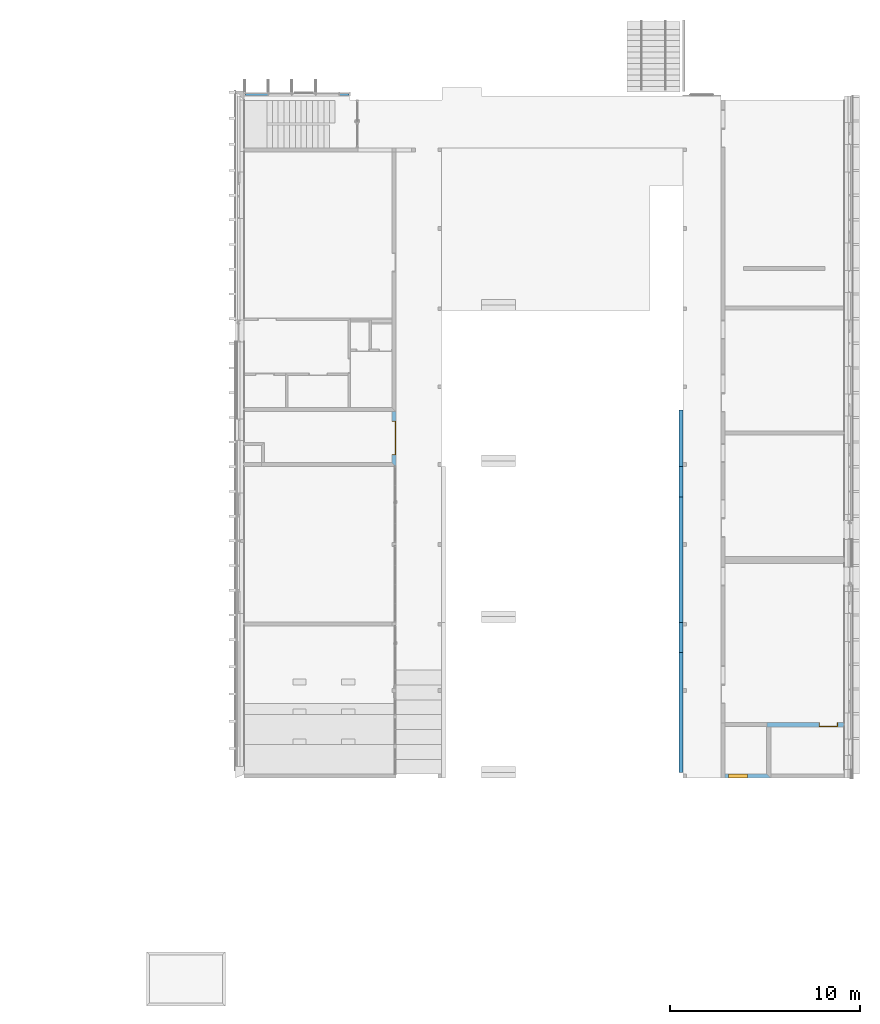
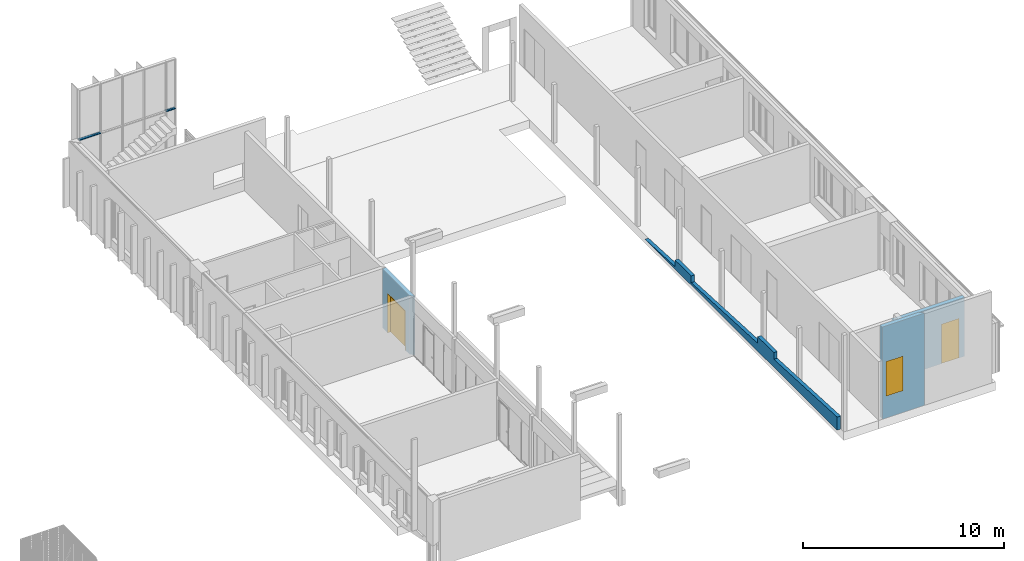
# One storey, part 26 of 65: 3 doors, 2 members, 1 wall, 3 openings, 1 element without a shape of its own, plus 3 elements that do not belong to this part.
"""IFC2X3 building model written with IfcOpenShell, lengths in millimetres."""

from ifc_helpers import new_model, entity, si_unit, converted_unit, derived_unit, money_unit, direction, frame, origin_with_axes, origin_2d_with_axis, place, context, subcontext, project, spatial, polyline, rectangle, outline, extrude, boolean, faceted_brep, material, layer, layer_set, layer_usage, type_object, element, fill, aggregate, save


model = new_model("IFC2X3")

# Units and contexts
model_context = context("Model", 3, precision=0.01, world=origin_with_axes(), true_north=direction((0.0, 1.0)))
body_context = subcontext(model_context, "Body", "Model", "MODEL_VIEW")
ifc_project = project(units=[si_unit("LENGTHUNIT", "METRE", prefix="MILLI"), si_unit("AREAUNIT", "SQUARE_METRE"), si_unit("VOLUMEUNIT", "CUBIC_METRE"), converted_unit("PLANEANGLEUNIT", "DEGREE", entity("IfcPlaneAngleMeasure", 0.0174532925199), si_unit("PLANEANGLEUNIT", "RADIAN"), dimensions=[0, 0, 0, 0, 0, 0, 0]), si_unit("SOLIDANGLEUNIT", "STERADIAN"), money_unit("EUR"), converted_unit("TIMEUNIT", "Year", entity("IfcTimeMeasure", 31556926.0), si_unit("TIMEUNIT", "SECOND"), dimensions=[0, 0, 1, 0, 0, 0, 0]), si_unit("MASSUNIT", "GRAM", prefix="KILO"), si_unit("THERMODYNAMICTEMPERATUREUNIT", "DEGREE_CELSIUS"), si_unit("LUMINOUSINTENSITYUNIT", "LUMEN"), si_unit("ENERGYUNIT", "JOULE", prefix="MEGA"), derived_unit("THERMALCONDUCTANCEUNIT", [(si_unit("POWERUNIT", "WATT"), 1), (si_unit("LENGTHUNIT", "METRE"), -1), (si_unit("THERMODYNAMICTEMPERATUREUNIT", "KELVIN"), -1)]), derived_unit("SPECIFICHEATCAPACITYUNIT", [(si_unit("ENERGYUNIT", "JOULE"), 1), (si_unit("MASSUNIT", "GRAM", prefix="KILO"), -1), (si_unit("THERMODYNAMICTEMPERATUREUNIT", "KELVIN"), -1)]), derived_unit("MASSDENSITYUNIT", [(si_unit("MASSUNIT", "GRAM", prefix="KILO"), 1), (si_unit("VOLUMEUNIT", "CUBIC_METRE"), -1)])], contexts=[model_context])

# Site, building, storey
site_placement = place(None, origin_with_axes())
site = spatial("IfcSite", under=ifc_project, at=site_placement, Name="Puškini 31, Narva", CompositionType="ELEMENT")
building_placement = place(site_placement, origin_with_axes())
building = spatial("IfcBuilding", under=site, at=building_placement, Name="Narva Riigigümnaasium", CompositionType="ELEMENT")
storey_placement = place(building_placement, frame((0.0, 0.0, -1320.0), z_axis=(0.0, 0.0, 1.0), x_axis=(1.0, 0.0, 0.0)))
storey = spatial("IfcBuildingStorey", under=building, at=storey_placement, Name="1.korrus -1.32", CompositionType="ELEMENT", Elevation=-1320.0)

# Curtain wall, members
curtain_wall_type = type_object("IfcCurtainWallType", Name="Curtain Wall Type", PredefinedType="NOTDEFINED")
curtain_wall_placement = place(storey_placement, frame((23044.9999985, 195055.000005, -0.000275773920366), z_axis=(0.0, 0.0, 1.0), x_axis=(1.0, 0.0, 0.0)))
curtain_wall = element("IfcCurtainWall", 1, at=curtain_wall_placement, inside=storey, type_object=curtain_wall_type, Name="G-KLF-04")
ifc_material_1 = material(Name="ET-04_Alumiinium")
member_type = type_object("IfcMemberType", Name="Boundary Frame 50 x 176", PredefinedType="MULLION")
member_1_placement = place(curtain_wall_placement, frame((-625.0, 0.0, 3960.00002624), z_axis=(1.0, 0.0, 0.0), x_axis=(0.0, 0.0, 1.0)))
member_1 = element("IfcMember", 2, at=member_1_placement, type_object=member_type, material=ifc_material_1, Name="klaasfassaadi raam", ObjectType="MULLION", context=body_context, shape_type="Brep", body=[
    faceted_brep([(-10.0, 29.0, 1250.0), (-10.0, -29.0, 1250.0), (-25.0, -29.0, 1250.0), (-25.0, -46.0, 1250.0), (25.0, -46.0, 1250.0), (25.0, -29.0, 1250.0), (10.0, -29.0, 1250.0), (10.0, 29.0, 1250.0), (25.0, 29.0, 1250.0), (25.0, 130.0, 1250.0), (-25.0, 130.0, 1250.0), (-25.0, 29.0, 1250.0), (-10.0, 29.0, 20.0), (-10.0, -29.0, 20.0), (-25.0, -29.0, 50.0), (-25.0, -46.0, 50.0), (25.0, -46.0, 50.0), (0.0, -46.0, 0.0), (25.0, -29.0, 50.0), (10.0, -29.0, 20.0), (10.0, 29.0, 20.0), (25.0, 29.0, 50.0), (25.0, 130.0, 50.0), (-25.0, 130.0, 50.0), (0.0, 130.0, 0.0), (-25.0, 29.0, 50.0)], [[[0, 1, 2, 3, 4, 5, 6, 7, 8, 9, 10, 11]], [[0, 12, 13, 1]], [[1, 13, 14, 2]], [[14, 15, 3, 2]], [[16, 4, 3, 15, 17]], [[18, 5, 4, 16]], [[5, 18, 19, 6]], [[7, 6, 19, 20]], [[8, 7, 20, 21]], [[8, 21, 22, 9]], [[23, 10, 9, 22, 24]], [[11, 10, 23, 25]], [[11, 25, 12, 0]], [[13, 12, 25, 23, 24, 17, 15, 14]], [[16, 17, 24, 22, 21, 20, 19, 18]]]),
])
member_2_placement = place(curtain_wall_placement, frame((4375.0, 0.0, 3960.00002624), z_axis=(1.0, 0.0, 0.0), x_axis=(0.0, 0.0, 1.0)))
member_2 = element("IfcMember", 3, at=member_2_placement, type_object=member_type, material=ifc_material_1, Name="klaasfassaadi raam", ObjectType="MULLION", context=body_context, shape_type="Brep", body=[
    faceted_brep([(-10.0, 29.0, 540.040175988), (-10.0, -29.0, 540.040175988), (-25.0, -29.0, 510.040175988), (-25.0, -46.0, 510.040175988), (0.0, -46.0, 560.040175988), (0.0, 130.0, 560.040175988), (-25.0, 130.0, 510.040175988), (-25.0, 29.0, 510.040175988), (-10.0, 29.0, 0.0), (-10.0, -29.0, 0.0), (-25.0, -29.0, 0.0), (-25.0, -46.0, 0.0), (25.0, -46.0, 0.0), (25.0, -46.0, 510.040175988), (25.0, -29.0, 510.040175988), (10.0, -29.0, 540.040175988), (10.0, 29.0, 540.040175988), (25.0, 29.0, 510.040175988), (25.0, 130.0, 510.040175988), (25.0, 130.0, 0.0), (-25.0, 130.0, 0.0), (-25.0, 29.0, 0.0), (25.0, 29.0, 0.0), (10.0, 29.0, 0.0), (10.0, -29.0, 0.0), (25.0, -29.0, 0.0)], [[[0, 1, 2, 3, 4, 5, 6, 7]], [[0, 8, 9, 1]], [[1, 9, 10, 2]], [[10, 11, 3, 2]], [[11, 12, 13, 4, 3]], [[5, 4, 13, 14, 15, 16, 17, 18]], [[18, 19, 20, 6, 5]], [[7, 6, 20, 21]], [[7, 21, 8, 0]], [[9, 8, 21, 20, 19, 22, 23, 24, 25, 12, 11, 10]], [[25, 14, 13, 12]], [[14, 25, 24, 15]], [[16, 15, 24, 23]], [[17, 16, 23, 22]], [[17, 22, 19, 18]]]),
])
aggregate(curtain_wall, [member_1, member_2])

# Wall
ifc_material_2 = material(Name="KON-04_Betoon - Konstuktsioon")
wall_type_1 = type_object("IfcWallType", Name="KON-04_Betoon - Konstuktsioon 200", PredefinedType="NOTDEFINED")
wall_1_placement = place(storey_placement, frame((45499.9999996, 159000.0, 0.0), z_axis=(0.0, 0.0, 1.0), x_axis=(0.0, 1.0, 0.0)))
element("IfcWall", 4, at=wall_1_placement, inside=storey, type_object=wall_type_1, material=ifc_material_2, Name="Sisesein", context=body_context, shape_type="CSG", body=[
    boolean("DIFFERENCE", extrude(outline(polyline([(0.0, 0.0), (31200.0000003, 0.0), (31200.0000003, 200.0), (0.0, 200.0), (0.0, 0.0)])), origin_with_axes(), (0.0, 0.0, 1.0), 3565.0), faceted_brep([(16399.9999995, 7.68189067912e-07, 550.0), (16399.9999995, 7.68189067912e-07, 149.362898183), (19387.2579632, 7.68189067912e-07, 0.0), (31200.0000003, 0.0, 0.0), (31200.0000003, 0.0, 3565.0), (0.0, 0.0, 3565.0), (0.0, 0.0, 0.0), (299.999999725, 0.0, 0.0), (299.999999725, 9.62785406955e-08, 794.382130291), (6599.99999973, 9.62785406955e-08, 479.754421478), (6599.99999973, 9.62785406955e-08, 880.0), (8199.99993485, -1.01482697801e-05, 880.0), (8199.99993485, -1.01482697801e-05, 479.362898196), (14800.0000002, -1.01482697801e-05, 149.362898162), (14800.0000002, -1.01482697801e-05, 550.0), (16399.9999995, 200.0, 550.0), (16399.9999995, 200.0, 149.362898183), (19387.2579632, 200.0, 0.0), (31200.0000003, 200.0, 0.0), (31200.0000003, 200.0, 3565.0), (0.0, 200.0, 3565.0), (0.0, 200.0, 0.0), (299.999999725, 200.0, 0.0), (299.999999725, 200.0, 794.382130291), (6599.99999973, 200.0, 479.754421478), (6599.99999973, 200.0, 880.0), (8199.99993485, 200.0, 880.0), (8199.99993485, 200.0, 479.362898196), (14800.0000002, 200.0, 149.362898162), (14800.0000002, 200.0, 550.0)], [[[0, 1, 2, 3, 4, 5, 6, 7, 8, 9, 10, 11, 12, 13, 14]], [[1, 0, 15, 16]], [[17, 2, 1, 16]], [[2, 17, 18, 3]], [[4, 3, 18, 19]], [[20, 5, 4, 19]], [[20, 21, 6, 5]], [[22, 7, 6, 21]], [[8, 7, 22, 23]], [[9, 8, 23, 24]], [[10, 9, 24, 25]], [[11, 10, 25, 26]], [[12, 11, 26, 27]], [[13, 12, 27, 28]], [[14, 13, 28, 29]], [[0, 14, 29, 15]], [[23, 22, 21, 20, 19, 18, 17, 16, 15, 29, 28, 27, 26, 25, 24]]])),
])

# Wall, opening, door
ifc_material_3 = material(Name="Betoon element")
ifc_layer_1 = layer(ifc_material_3, 200.0, ventilated="UNKNOWN")
ifc_material_4 = material(Name="siseviimistlus-seinad")
ifc_layer_2 = layer(ifc_material_4, 10.0, ventilated="UNKNOWN")
ifc_layer_set_1 = layer_set([ifc_layer_1, ifc_layer_2], Name="G-SS-01-02")
ifc_layer_usage_1 = layer_usage(ifc_layer_set_1, "AXIS2", "NEGATIVE", 0.0)
wall_type_2 = type_object("IfcWallType", Name="G-SS-01-02 210", PredefinedType="NOTDEFINED")
wall_2_placement = place(storey_placement, frame((30399.9999994, 178500.00001, 0.0), z_axis=(0.0, 0.0, 1.0), x_axis=(0.0, -1.0, 0.0)))
wall_2 = element("IfcWallStandardCase", 5, at=wall_2_placement, inside=storey, type_object=wall_type_2, material=ifc_layer_usage_1, Name="Sisesein", context=body_context, shape_type="SweptSolid", body=[
    extrude(outline(polyline([(210.0, -210.0), (2889.99989486, -210.0), (3109.99989486, 0.0), (210.0, 0.0), (210.0, -210.0)])), origin_with_axes(), (0.0, 0.0, 1.0), 3565.0),
])
opening_1_placement = place(wall_2_placement, frame((1600.00000015, 0.0, 0.0), z_axis=(0.0, 0.0, 1.0), x_axis=(1.0, 0.0, 0.0)))
opening_1 = element("IfcOpeningElement", 6, at=opening_1_placement, cuts=wall_2, Name="G-SU-002", context=body_context, shape_type="SweptSolid", body=[
    extrude(rectangle(XDim=1799.99999996, YDim=2400.0, at=origin_2d_with_axis()), frame((0.0, -210.0, 1200.0), z_axis=(0.0, 1.0, 0.0), x_axis=(1.0, 0.0, 0.0)), (0.0, 0.0, 1.0), 630.0),
])
door_style_1 = type_object("IfcDoorStyle", Name="Double Door 23", ConstructionType="NOTDEFINED", OperationType="DOUBLE_DOOR_SINGLE_SWING", ParameterTakesPrecedence=False, Sizeable=False)
door_1_placement = place(opening_1_placement, frame((-899.99999998, 0.0, 0.0), z_axis=(0.0, 0.0, 1.0), x_axis=(1.0, 0.0, 0.0)))
door_1 = element("IfcDoor", 7, at=door_1_placement, inside=storey, type_object=door_style_1, Name="G-SU-002", ObjectType="DOOR", OverallHeight=2400.0, OverallWidth=1800.0, context=body_context, shape_type="Brep", body=[
    faceted_brep([(40.0, -40.0, 0.0), (40.0, -40.0, 2360.0), (40.0, -210.0, 2360.0), (40.0, -210.0, 0.0), (28.0, -40.0, 2360.0), (28.0, -40.0, 0.0), (28.0, 0.0, 2360.0), (0.0, 0.0, 2360.0), (0.0, -210.0, 2360.0), (0.0, -210.0, 0.0), (0.0, 0.0, 0.0), (28.0, 0.0, 0.0)], [[[0, 1, 2, 3]], [[4, 1, 0, 5]], [[4, 6, 7, 8, 2, 1]], [[3, 2, 8, 9]], [[5, 0, 3, 9, 10, 11]], [[6, 4, 5, 11]], [[6, 11, 10, 7]], [[10, 9, 8, 7]]]),
    faceted_brep([(1771.99999996, -40.0, 2360.0), (1759.99999996, -40.0, 2360.0), (1759.99999996, -210.0, 2360.0), (1799.99999996, -210.0, 2360.0), (1799.99999996, 0.0, 2360.0), (1771.99999996, 0.0, 2360.0), (1771.99999996, -40.0, 0.0), (1759.99999996, -40.0, 0.0), (1759.99999996, -210.0, 0.0), (1799.99999996, -210.0, 0.0), (1799.99999996, 0.0, 0.0), (1771.99999996, 0.0, 0.0)], [[[0, 1, 2, 3, 4, 5]], [[1, 0, 6, 7]], [[1, 7, 8, 2]], [[3, 2, 8, 9]], [[4, 3, 9, 10]], [[11, 5, 4, 10]], [[0, 5, 11, 6]], [[6, 11, 10, 9, 8, 7]]]),
    faceted_brep([(28.0, 0.0, 2372.0), (28.0, 0.0, 2360.0), (0.0, 0.0, 2360.0), (0.0, 0.0, 2400.0), (1799.99999996, 0.0, 2400.0), (1799.99999996, 0.0, 2360.0), (1771.99999996, 0.0, 2360.0), (1771.99999996, 0.0, 2372.0), (28.0, -40.0, 2372.0), (28.0, -40.0, 2360.0), (40.0, -40.0, 2360.0), (40.0, -210.0, 2360.0), (0.0, -210.0, 2360.0), (0.0, -210.0, 2400.0), (1799.99999996, -210.0, 2400.0), (1799.99999996, -210.0, 2360.0), (1771.99999996, -40.0, 2360.0), (1759.99999996, -210.0, 2360.0), (1759.99999996, -40.0, 2360.0), (1771.99999996, -40.0, 2372.0)], [[[0, 1, 2, 3, 4, 5, 6, 7]], [[1, 0, 8, 9]], [[9, 10, 11, 12, 2, 1]], [[2, 12, 13, 3]], [[3, 13, 14, 4]], [[4, 14, 15, 5]], [[16, 6, 5, 15, 17, 18]], [[7, 6, 16, 19]], [[0, 7, 19, 8]], [[16, 18, 10, 9, 8, 19]], [[10, 18, 17, 11]], [[17, 15, 14, 13, 12, 11]]]),
    faceted_brep([(1771.99999996, 0.0, 0.0), (1771.99999996, -40.0, 0.0), (899.99999998, -40.0, 0.0), (899.99999998, 0.0, 0.0), (1771.99999996, 0.0, 2372.0), (1771.99999996, -40.0, 2372.0), (899.99999998, -40.0, 2372.0), (899.99999998, 0.0, 2372.0)], [[[0, 1, 2, 3]], [[4, 5, 1, 0]], [[1, 5, 6, 2]], [[3, 2, 6, 7]], [[0, 3, 7, 4]], [[7, 6, 5, 4]]]),
    faceted_brep([(28.0, 0.0, 0.0), (899.99999998, 0.0, 0.0), (899.99999998, -40.0, 0.0), (28.0, -40.0, 0.0), (28.0, 0.0, 2372.0), (899.99999998, 0.0, 2372.0), (899.99999998, -40.0, 2372.0), (28.0, -40.0, 2372.0)], [[[0, 1, 2, 3]], [[0, 4, 5, 1]], [[1, 5, 6, 2]], [[3, 2, 6, 7]], [[4, 0, 3, 7]], [[5, 4, 7, 6]]]),
])
fill(opening_1, door_1)

ifc_layer_set_2 = layer_set([ifc_layer_2, ifc_layer_1, ifc_layer_2], Name="G-SS-01-01")
ifc_layer_usage_2 = layer_usage(ifc_layer_set_2, "AXIS2", "POSITIVE", -10.0)
wall_type_3 = type_object("IfcWallType", Name="G-SS-01-01 220", PredefinedType="NOTDEFINED")
wall_3_placement = place(storey_placement, frame((49929.7365062, 161700.0, 0.0), z_axis=(0.0, 0.0, 1.0), x_axis=(1.0, 0.0, 0.0)))
wall_3 = element("IfcWallStandardCase", 8, at=wall_3_placement, inside=storey, type_object=wall_type_3, material=ifc_layer_usage_2, Name="Sisesein", context=body_context, shape_type="SweptSolid", body=[
    extrude(outline(polyline([(0.0, -9.99999999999), (4060.26349483, -9.99999999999), (4060.26349483, 210.0), (0.0, 210.0), (0.0, -9.99999999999)])), origin_with_axes(), (0.0, 0.0, 1.0), 3565.0),
])
opening_2_placement = place(wall_3_placement, frame((3230.26350005, 0.0, 0.0), z_axis=(0.0, 0.0, 1.0), x_axis=(1.0, 0.0, 0.0)))
opening_2 = element("IfcOpeningElement", 9, at=opening_2_placement, cuts=wall_3, Name="G-SU-014", context=body_context, shape_type="SweptSolid", body=[
    extrude(rectangle(XDim=1000.0, YDim=2400.0, at=origin_2d_with_axis()), frame((0.0, 220.0, 1200.0), z_axis=(0.0, 1.0, 0.0), x_axis=(1.0, 0.0, 0.0)), (0.0, 0.0, -1.0), 660.0),
])
door_style_2 = type_object("IfcDoorStyle", Name="Door 23", ConstructionType="NOTDEFINED", OperationType="SINGLE_SWING_LEFT", ParameterTakesPrecedence=False, Sizeable=False)
door_2_placement = place(opening_2_placement, frame((500.0, 0.0, 0.0), z_axis=(0.0, 0.0, 1.0), x_axis=(-1.0, 0.0, 0.0)))
door_2 = element("IfcDoor", 10, at=door_2_placement, inside=storey, type_object=door_style_2, Name="G-SU-014", ObjectType="DOOR", OverallHeight=2400.0, OverallWidth=1000.0, context=body_context, shape_type="Brep", body=[
    faceted_brep([(960.0, -30.0, 0.0), (960.0, -210.0, 0.0), (960.0, -210.0, 2360.0), (960.0, -30.0, 2360.0), (972.0, -30.0, 0.0), (972.0, 9.99999999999, 0.0), (1000.0, 9.99999999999, 0.0), (1000.0, -210.0, 0.0), (1000.0, -210.0, 2360.0), (972.0, -30.0, 2360.0), (1000.0, 9.99999999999, 2360.0), (972.0, 9.99999999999, 2360.0)], [[[0, 1, 2, 3]], [[4, 5, 6, 7, 1, 0]], [[1, 7, 8, 2]], [[9, 3, 2, 8, 10, 11]], [[9, 4, 0, 3]], [[11, 5, 4, 9]], [[11, 10, 6, 5]], [[6, 10, 8, 7]]]),
    faceted_brep([(28.0, -30.0, 2360.0), (28.0, 9.99999999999, 2360.0), (0.0, 9.99999999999, 2360.0), (0.0, -210.0, 2360.0), (40.0, -210.0, 2360.0), (40.0, -30.0, 2360.0), (28.0, -30.0, 0.0), (28.0, 9.99999999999, 0.0), (0.0, 9.99999999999, 0.0), (0.0, -210.0, 0.0), (40.0, -210.0, 0.0), (40.0, -30.0, 0.0)], [[[0, 1, 2, 3, 4, 5]], [[0, 6, 7, 1]], [[7, 8, 2, 1]], [[2, 8, 9, 3]], [[3, 9, 10, 4]], [[5, 4, 10, 11]], [[5, 11, 6, 0]], [[6, 11, 10, 9, 8, 7]]]),
    faceted_brep([(972.0, 9.99999999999, 2372.0), (28.0, 9.99999999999, 2372.0), (28.0, 9.99999999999, 2360.0), (0.0, 9.99999999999, 2360.0), (0.0, 9.99999999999, 2400.0), (1000.0, 9.99999999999, 2400.0), (1000.0, 9.99999999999, 2360.0), (972.0, 9.99999999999, 2360.0), (972.0, -30.0, 2372.0), (28.0, -30.0, 2372.0), (28.0, -30.0, 2360.0), (40.0, -30.0, 2360.0), (40.0, -210.0, 2360.0), (0.0, -210.0, 2360.0), (0.0, -210.0, 2400.0), (1000.0, -210.0, 2400.0), (1000.0, -210.0, 2360.0), (972.0, -30.0, 2360.0), (960.0, -210.0, 2360.0), (960.0, -30.0, 2360.0)], [[[0, 1, 2, 3, 4, 5, 6, 7]], [[0, 8, 9, 1]], [[1, 9, 10, 2]], [[10, 11, 12, 13, 3, 2]], [[4, 3, 13, 14]], [[5, 4, 14, 15]], [[6, 5, 15, 16]], [[17, 7, 6, 16, 18, 19]], [[7, 17, 8, 0]], [[10, 9, 8, 17, 19, 11]], [[19, 18, 12, 11]], [[12, 18, 16, 15, 14, 13]]]),
    faceted_brep([(28.0, 9.99999999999, 20.0), (972.0, 9.99999999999, 20.0), (972.0, -30.0, 20.0), (28.0, -30.0, 20.0), (28.0, 9.99999999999, 2372.0), (972.0, 9.99999999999, 2372.0), (972.0, -30.0, 2372.0), (28.0, -30.0, 2372.0)], [[[0, 1, 2, 3]], [[0, 4, 5, 1]], [[1, 5, 6, 2]], [[3, 2, 6, 7]], [[4, 0, 3, 7]], [[5, 4, 7, 6]]]),
])
fill(opening_2, door_2)

ifc_layer_3 = layer(ifc_material_4, 15.0, ventilated="UNKNOWN")
ifc_layer_set_3 = layer_set([ifc_layer_1, ifc_layer_3], Name="G-SS-01-03")
ifc_layer_usage_3 = layer_usage(ifc_layer_set_3, "AXIS2", "POSITIVE", -200.0)
wall_type_4 = type_object("IfcWallType", Name="G-SS-01-03 215", PredefinedType="NOTDEFINED")
wall_4_placement = place(storey_placement, frame((47499.9999944, 159200.0, 0.0), z_axis=(0.0, 0.0, 1.0), x_axis=(1.0, 0.0, 0.0)))
wall_4 = element("IfcWallStandardCase", 11, at=wall_4_placement, inside=storey, type_object=wall_type_4, material=ifc_layer_usage_3, Name="Sisesein", context=body_context, shape_type="SweptSolid", body=[
    extrude(outline(polyline([(215.0, -200.0), (2640.09563538, -200.0), (2415.06703666, 15.0), (215.0, 15.0), (215.0, -200.0)])), origin_with_axes(), (0.0, 0.0, 1.0), 5590.0),
])
opening_3_placement = place(wall_4_placement, frame((910.0, 0.0, 1320.0), z_axis=(0.0, 0.0, 1.0), x_axis=(1.0, 0.0, 0.0)))
opening_3 = element("IfcOpeningElement", 12, at=opening_3_placement, cuts=wall_4, Name="G-SU-001", context=body_context, shape_type="SweptSolid", body=[
    extrude(rectangle(XDim=1000.0, YDim=2100.0, at=origin_2d_with_axis()), frame((0.0, 215.0, 1050.0), z_axis=(0.0, 1.0, 0.0), x_axis=(1.0, 0.0, 0.0)), (0.0, 0.0, -1.0), 645.0),
])
door_3_placement = place(opening_3_placement, frame((500.0, 0.0, 0.0), z_axis=(0.0, 0.0, 1.0), x_axis=(-1.0, 0.0, 0.0)))
door_3 = element("IfcDoor", 13, at=door_3_placement, inside=storey, type_object=door_style_2, Name="G-SU-001", ObjectType="DOOR", OverallHeight=2100.0, OverallWidth=1000.0, context=body_context, shape_type="Brep", body=[
    faceted_brep([(960.0, 160.0, 0.0), (960.0, -15.0, 0.0), (960.0, -15.0, 2060.0), (960.0, 160.0, 2060.0), (972.0, 160.0, 0.0), (972.0, 200.0, 0.0), (1000.0, 200.0, 0.0), (1000.0, -15.0, 0.0), (1000.0, -15.0, 2060.0), (972.0, 160.0, 2060.0), (1000.0, 200.0, 2060.0), (972.0, 200.0, 2060.0)], [[[0, 1, 2, 3]], [[4, 5, 6, 7, 1, 0]], [[1, 7, 8, 2]], [[9, 3, 2, 8, 10, 11]], [[9, 4, 0, 3]], [[11, 5, 4, 9]], [[11, 10, 6, 5]], [[6, 10, 8, 7]]]),
    faceted_brep([(28.0, 160.0, 2060.0), (28.0, 200.0, 2060.0), (0.0, 200.0, 2060.0), (0.0, -15.0, 2060.0), (40.0, -15.0, 2060.0), (40.0, 160.0, 2060.0), (28.0, 160.0, 0.0), (28.0, 200.0, 0.0), (0.0, 200.0, 0.0), (0.0, -15.0, 0.0), (40.0, -15.0, 0.0), (40.0, 160.0, 0.0)], [[[0, 1, 2, 3, 4, 5]], [[0, 6, 7, 1]], [[7, 8, 2, 1]], [[2, 8, 9, 3]], [[3, 9, 10, 4]], [[5, 4, 10, 11]], [[5, 11, 6, 0]], [[6, 11, 10, 9, 8, 7]]]),
    faceted_brep([(972.0, 200.0, 2072.0), (28.0, 200.0, 2072.0), (28.0, 200.0, 2060.0), (0.0, 200.0, 2060.0), (0.0, 200.0, 2100.0), (1000.0, 200.0, 2100.0), (1000.0, 200.0, 2060.0), (972.0, 200.0, 2060.0), (972.0, 160.0, 2072.0), (28.0, 160.0, 2072.0), (28.0, 160.0, 2060.0), (40.0, 160.0, 2060.0), (40.0, -15.0, 2060.0), (0.0, -15.0, 2060.0), (0.0, -15.0, 2100.0), (1000.0, -15.0, 2100.0), (1000.0, -15.0, 2060.0), (972.0, 160.0, 2060.0), (960.0, -15.0, 2060.0), (960.0, 160.0, 2060.0)], [[[0, 1, 2, 3, 4, 5, 6, 7]], [[0, 8, 9, 1]], [[1, 9, 10, 2]], [[10, 11, 12, 13, 3, 2]], [[4, 3, 13, 14]], [[5, 4, 14, 15]], [[6, 5, 15, 16]], [[17, 7, 6, 16, 18, 19]], [[7, 17, 8, 0]], [[10, 9, 8, 17, 19, 11]], [[19, 18, 12, 11]], [[12, 18, 16, 15, 14, 13]]]),
    faceted_brep([(28.0, 200.0, 0.0), (972.0, 200.0, 0.0), (972.0, 160.0, 0.0), (28.0, 160.0, 0.0), (28.0, 200.0, 2072.0), (972.0, 200.0, 2072.0), (972.0, 160.0, 2072.0), (28.0, 160.0, 2072.0)], [[[0, 1, 2, 3]], [[0, 4, 5, 1]], [[1, 5, 6, 2]], [[3, 2, 6, 7]], [[4, 0, 3, 7]], [[5, 4, 7, 6]]]),
])
fill(opening_3, door_3)

save(model, "model.ifc")
